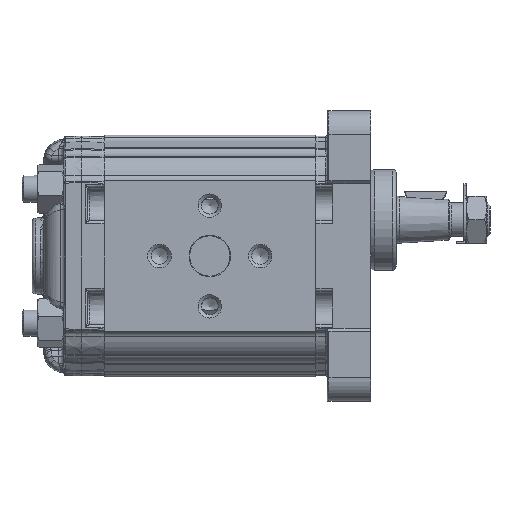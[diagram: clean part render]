
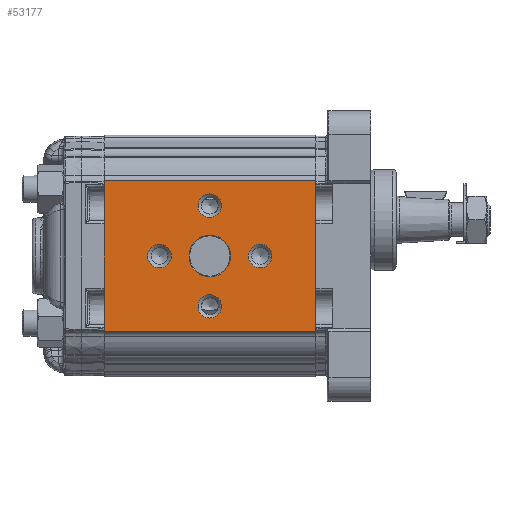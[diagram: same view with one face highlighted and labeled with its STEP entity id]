
A CAD part, left-side view. The second image highlights one B-rep face of the part: STEP entity #53177.
In plain terms, the highlighted planar face has unit normal (-1, 0, 0) as drawn and (1, 0, 0) by its records, which use the part's own axes.
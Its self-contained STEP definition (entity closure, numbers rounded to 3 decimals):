
#2169=LINE('',#75317,#4178);
#2171=LINE('',#75346,#4180);
#2196=LINE('',#75434,#4205);
#2197=LINE('',#75436,#4206);
#4178=VECTOR('',#62844,1000.);
#4180=VECTOR('',#62872,1000.);
#4205=VECTOR('',#62965,1000.);
#4206=VECTOR('',#62968,1000.);
#10869=ORIENTED_EDGE('',*,*,#20220,.T.);
#10870=ORIENTED_EDGE('',*,*,#20221,.T.);
#10871=ORIENTED_EDGE('',*,*,#20222,.T.);
#10872=ORIENTED_EDGE('',*,*,#20223,.T.);
#10873=ORIENTED_EDGE('',*,*,#20224,.T.);
#10874=ORIENTED_EDGE('',*,*,#20197,.T.);
#10875=ORIENTED_EDGE('',*,*,#20149,.T.);
#10876=ORIENTED_EDGE('',*,*,#20198,.T.);
#10877=ORIENTED_EDGE('',*,*,#20135,.F.);
#20135=EDGE_CURVE('',#25086,#25087,#2169,.T.);
#20149=EDGE_CURVE('',#25101,#25100,#2171,.T.);
#20197=EDGE_CURVE('',#25086,#25101,#2196,.T.);
#20198=EDGE_CURVE('',#25100,#25087,#2197,.F.);
#20220=EDGE_CURVE('',#25143,#25143,#28208,.F.);
#20221=EDGE_CURVE('',#25144,#25144,#28209,.F.);
#20222=EDGE_CURVE('',#25145,#25145,#28210,.F.);
#20223=EDGE_CURVE('',#25146,#25146,#28211,.F.);
#20224=EDGE_CURVE('',#25147,#25147,#28212,.F.);
#25086=VERTEX_POINT('',#75316);
#25087=VERTEX_POINT('',#75318);
#25100=VERTEX_POINT('',#75345);
#25101=VERTEX_POINT('',#75347);
#25143=VERTEX_POINT('',#75566);
#25144=VERTEX_POINT('',#75568);
#25145=VERTEX_POINT('',#75570);
#25146=VERTEX_POINT('',#75572);
#25147=VERTEX_POINT('',#75574);
#28208=CIRCLE('',#56398,6.2);
#28209=CIRCLE('',#56399,3.5);
#28210=CIRCLE('',#56400,3.5);
#28211=CIRCLE('',#56401,3.5);
#28212=CIRCLE('',#56402,3.5);
#30400=EDGE_LOOP('',(#10869));
#30401=EDGE_LOOP('',(#10870));
#30402=EDGE_LOOP('',(#10871));
#30403=EDGE_LOOP('',(#10872));
#30404=EDGE_LOOP('',(#10873));
#30405=EDGE_LOOP('',(#10874,#10875,#10876,#10877));
#33139=FACE_BOUND('',#30400,.T.);
#33140=FACE_BOUND('',#30401,.T.);
#33141=FACE_BOUND('',#30402,.T.);
#33142=FACE_BOUND('',#30403,.T.);
#33143=FACE_BOUND('',#30404,.T.);
#33144=FACE_BOUND('',#30405,.T.);
#35170=PLANE('',#56397);
#53177=ADVANCED_FACE('',(#33139,#33140,#33141,#33142,#33143,#33144),#35170,
 .T.);
#56397=AXIS2_PLACEMENT_3D('',#75564,#63017,#63018);
#56398=AXIS2_PLACEMENT_3D('',#75565,#63019,#63020);
#56399=AXIS2_PLACEMENT_3D('',#75567,#63021,#63022);
#56400=AXIS2_PLACEMENT_3D('',#75569,#63023,#63024);
#56401=AXIS2_PLACEMENT_3D('',#75571,#63025,#63026);
#56402=AXIS2_PLACEMENT_3D('',#75573,#63027,#63028);
#62844=DIRECTION('',(0.,0.,-1.));
#62872=DIRECTION('',(0.,0.,-1.));
#62965=DIRECTION('',(0.,-1.,0.));
#62968=DIRECTION('',(0.,-1.,0.));
#63017=DIRECTION('',(1.,0.,0.));
#63018=DIRECTION('',(0.,0.,-1.));
#63019=DIRECTION('',(1.,0.,0.));
#63020=DIRECTION('',(0.,0.,-1.));
#63021=DIRECTION('',(1.,0.,0.));
#63022=DIRECTION('',(0.,0.,-1.));
#63023=DIRECTION('',(1.,0.,0.));
#63024=DIRECTION('',(0.,0.,-1.));
#63025=DIRECTION('',(1.,0.,0.));
#63026=DIRECTION('',(0.,0.,-1.));
#63027=DIRECTION('',(1.,0.,0.));
#63028=DIRECTION('',(0.,0.,-1.));
#75316=CARTESIAN_POINT('',(33.,63.,22.5));
#75317=CARTESIAN_POINT('',(33.,63.,-21.711));
#75318=CARTESIAN_POINT('',(33.,63.,-22.5));
#75345=CARTESIAN_POINT('',(33.,0.,-22.5));
#75346=CARTESIAN_POINT('',(33.,0.,-21.711));
#75347=CARTESIAN_POINT('',(33.,0.,22.5));
#75434=CARTESIAN_POINT('',(33.,63.,22.5));
#75436=CARTESIAN_POINT('',(33.,63.,-22.5));
#75564=CARTESIAN_POINT('',(33.,133.537,-45.494));
#75565=CARTESIAN_POINT('',(33.,31.5,0.));
#75566=CARTESIAN_POINT('',(33.,31.5,-6.2));
#75567=CARTESIAN_POINT('',(33.,31.5,-15.));
#75568=CARTESIAN_POINT('',(33.,31.5,-18.5));
#75569=CARTESIAN_POINT('',(33.,46.5,0.));
#75570=CARTESIAN_POINT('',(33.,46.5,-3.5));
#75571=CARTESIAN_POINT('',(33.,31.5,15.));
#75572=CARTESIAN_POINT('',(33.,31.5,11.5));
#75573=CARTESIAN_POINT('',(33.,16.5,0.));
#75574=CARTESIAN_POINT('',(33.,16.5,-3.5));
